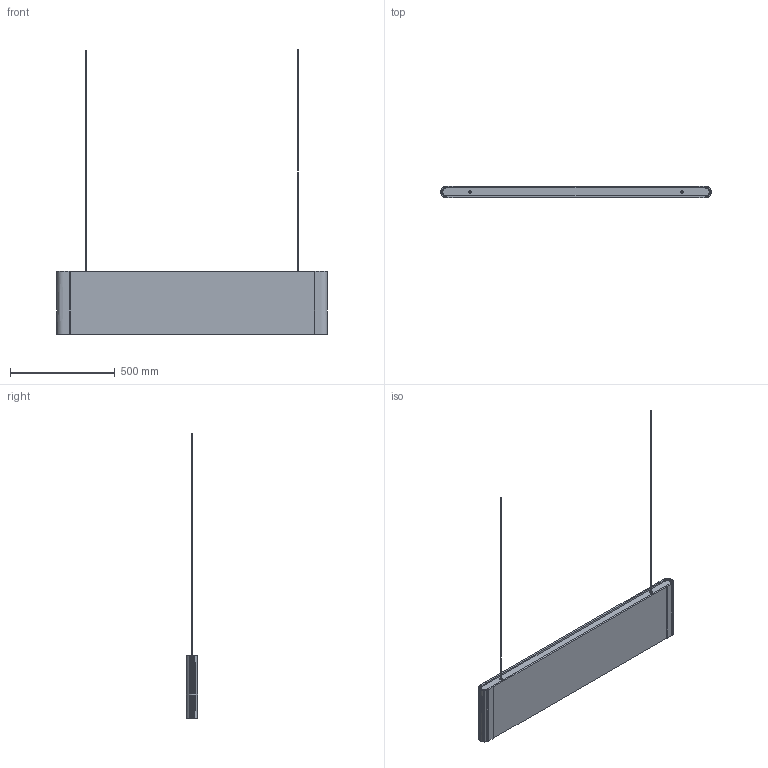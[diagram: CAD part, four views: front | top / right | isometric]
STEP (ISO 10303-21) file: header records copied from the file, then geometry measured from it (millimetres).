
FILE_DESCRIPTION(/* description */ (''),/* implementation_level */ '2;1');
FILE_NAME(/* name */ 'Line baffle 1290 STEP',/* time_stamp */ '2024-11-20T11:29:26+01:00',/* author */ (''),/* organization */ (''),/* preprocessor_version */ 'ST-DEVELOPER v16.5',/* originating_system */ 'Rhino 7.37',/* authorisation */ '');
FILE_SCHEMA (('CONFIG_CONTROL_DESIGN'));
Length unit declared in the file: millimetre
Products named in the file (1): Document
Bounding box: 1288.99 x 56 x 1357.19 mm (x, y, z)
Volume: 7080230.6 mm3; surface area: 1980241.4 mm2
Topology: 11 solids, 18 shells, 267 faces, 692 edges, 456 vertices
Faces by surface type: plane 145, bspline 62, cylinder 60
Entity records: 9839 total; most frequent: CARTESIAN_POINT 5136, ORIENTED_EDGE 1348, EDGE_CURVE 692, B_SPLINE_CURVE_WITH_KNOTS 576, VERTEX_POINT 456, EDGE_LOOP 281, ADVANCED_FACE 267, FACE_OUTER_BOUND 267
